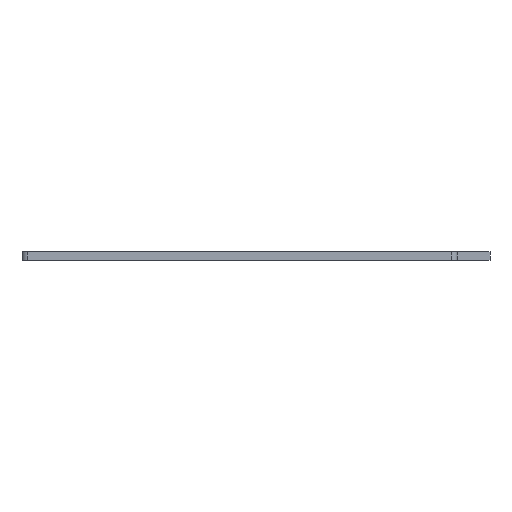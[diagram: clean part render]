
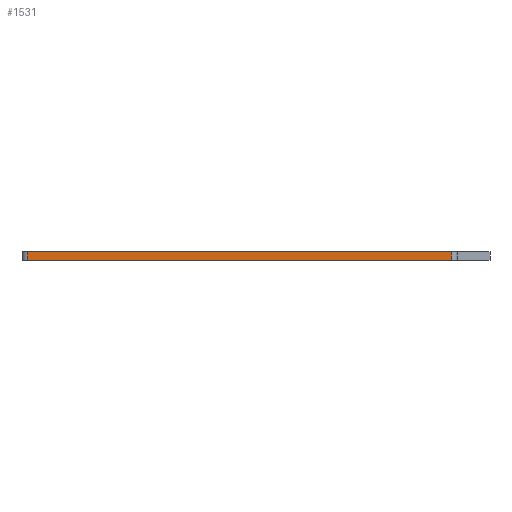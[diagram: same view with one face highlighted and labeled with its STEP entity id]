
A CAD part, front view. The second image highlights one B-rep face of the part: STEP entity #1531.
In plain terms, the highlighted planar face has unit normal (0, -1, 0).
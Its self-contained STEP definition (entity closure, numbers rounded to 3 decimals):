
#44 = PLANE('',#45);
#45 = AXIS2_PLACEMENT_3D('',#46,#47,#48);
#46 = CARTESIAN_POINT('',(0.3,-27.2,-1.92));
#47 = DIRECTION('',(0.,0.,1.));
#48 = DIRECTION('',(1.,0.,-0.));
#72 = CYLINDRICAL_SURFACE('',#73,0.2);
#73 = AXIS2_PLACEMENT_3D('',#74,#75,#76);
#74 = CARTESIAN_POINT('',(0.5,-27.,-2.22));
#75 = DIRECTION('',(0.,0.,1.));
#76 = DIRECTION('',(-1.,-0.,0.));
#100 = PLANE('',#101);
#101 = AXIS2_PLACEMENT_3D('',#102,#103,#104);
#102 = CARTESIAN_POINT('',(0.3,-27.2,-2.22));
#103 = DIRECTION('',(0.,0.,1.));
#104 = DIRECTION('',(1.,0.,-0.));
#143 = VERTEX_POINT('',#144);
#144 = CARTESIAN_POINT('',(0.5,-27.2,-1.92));
#166 = EDGE_CURVE('',#143,#167,#169,.T.);
#167 = VERTEX_POINT('',#168);
#168 = CARTESIAN_POINT('',(16.,-27.2,-1.92));
#169 = SURFACE_CURVE('',#170,(#174,#181),.PCURVE_S1.);
#170 = LINE('',#171,#172);
#171 = CARTESIAN_POINT('',(0.3,-27.2,-1.92));
#172 = VECTOR('',#173,1.);
#173 = DIRECTION('',(1.,0.,0.));
#174 = PCURVE('',#44,#175);
#175 = DEFINITIONAL_REPRESENTATION('',(#176),#180);
#176 = LINE('',#177,#178);
#177 = CARTESIAN_POINT('',(0.,0.));
#178 = VECTOR('',#179,1.);
#179 = DIRECTION('',(1.,0.));
#180 = ( GEOMETRIC_REPRESENTATION_CONTEXT(2) 
PARAMETRIC_REPRESENTATION_CONTEXT() REPRESENTATION_CONTEXT('2D SPACE',''
  ) );
#181 = PCURVE('',#182,#187);
#182 = PLANE('',#183);
#183 = AXIS2_PLACEMENT_3D('',#184,#185,#186);
#184 = CARTESIAN_POINT('',(0.3,-27.2,-2.22));
#185 = DIRECTION('',(0.,1.,0.));
#186 = DIRECTION('',(0.,-0.,1.));
#187 = DEFINITIONAL_REPRESENTATION('',(#188),#192);
#188 = LINE('',#189,#190);
#189 = CARTESIAN_POINT('',(0.3,0.));
#190 = VECTOR('',#191,1.);
#191 = DIRECTION('',(0.,1.));
#192 = ( GEOMETRIC_REPRESENTATION_CONTEXT(2) 
PARAMETRIC_REPRESENTATION_CONTEXT() REPRESENTATION_CONTEXT('2D SPACE',''
  ) );
#215 = CYLINDRICAL_SURFACE('',#216,0.2);
#216 = AXIS2_PLACEMENT_3D('',#217,#218,#219);
#217 = CARTESIAN_POINT('',(16.,-27.,-2.22));
#218 = DIRECTION('',(0.,0.,1.));
#219 = DIRECTION('',(1.,0.,-0.));
#650 = VERTEX_POINT('',#651);
#651 = CARTESIAN_POINT('',(0.5,-27.2,-2.22));
#673 = EDGE_CURVE('',#650,#143,#674,.T.);
#674 = SURFACE_CURVE('',#675,(#679,#686),.PCURVE_S1.);
#675 = LINE('',#676,#677);
#676 = CARTESIAN_POINT('',(0.5,-27.2,-2.22));
#677 = VECTOR('',#678,1.);
#678 = DIRECTION('',(0.,0.,1.));
#679 = PCURVE('',#72,#680);
#680 = DEFINITIONAL_REPRESENTATION('',(#681),#685);
#681 = LINE('',#682,#683);
#682 = CARTESIAN_POINT('',(1.571,0.));
#683 = VECTOR('',#684,1.);
#684 = DIRECTION('',(0.,1.));
#685 = ( GEOMETRIC_REPRESENTATION_CONTEXT(2) 
PARAMETRIC_REPRESENTATION_CONTEXT() REPRESENTATION_CONTEXT('2D SPACE',''
  ) );
#686 = PCURVE('',#182,#687);
#687 = DEFINITIONAL_REPRESENTATION('',(#688),#692);
#688 = LINE('',#689,#690);
#689 = CARTESIAN_POINT('',(0.,0.2));
#690 = VECTOR('',#691,1.);
#691 = DIRECTION('',(1.,0.));
#692 = ( GEOMETRIC_REPRESENTATION_CONTEXT(2) 
PARAMETRIC_REPRESENTATION_CONTEXT() REPRESENTATION_CONTEXT('2D SPACE',''
  ) );
#755 = EDGE_CURVE('',#650,#756,#758,.T.);
#756 = VERTEX_POINT('',#757);
#757 = CARTESIAN_POINT('',(16.,-27.2,-2.22));
#758 = SURFACE_CURVE('',#759,(#763,#770),.PCURVE_S1.);
#759 = LINE('',#760,#761);
#760 = CARTESIAN_POINT('',(0.3,-27.2,-2.22));
#761 = VECTOR('',#762,1.);
#762 = DIRECTION('',(1.,0.,0.));
#763 = PCURVE('',#100,#764);
#764 = DEFINITIONAL_REPRESENTATION('',(#765),#769);
#765 = LINE('',#766,#767);
#766 = CARTESIAN_POINT('',(0.,0.));
#767 = VECTOR('',#768,1.);
#768 = DIRECTION('',(1.,0.));
#769 = ( GEOMETRIC_REPRESENTATION_CONTEXT(2) 
PARAMETRIC_REPRESENTATION_CONTEXT() REPRESENTATION_CONTEXT('2D SPACE',''
  ) );
#770 = PCURVE('',#182,#771);
#771 = DEFINITIONAL_REPRESENTATION('',(#772),#776);
#772 = LINE('',#773,#774);
#773 = CARTESIAN_POINT('',(0.,0.));
#774 = VECTOR('',#775,1.);
#775 = DIRECTION('',(0.,1.));
#776 = ( GEOMETRIC_REPRESENTATION_CONTEXT(2) 
PARAMETRIC_REPRESENTATION_CONTEXT() REPRESENTATION_CONTEXT('2D SPACE',''
  ) );
#1510 = EDGE_CURVE('',#756,#167,#1511,.T.);
#1511 = SURFACE_CURVE('',#1512,(#1516,#1523),.PCURVE_S1.);
#1512 = LINE('',#1513,#1514);
#1513 = CARTESIAN_POINT('',(16.,-27.2,-2.22));
#1514 = VECTOR('',#1515,1.);
#1515 = DIRECTION('',(0.,0.,1.));
#1516 = PCURVE('',#215,#1517);
#1517 = DEFINITIONAL_REPRESENTATION('',(#1518),#1522);
#1518 = LINE('',#1519,#1520);
#1519 = CARTESIAN_POINT('',(4.712,0.));
#1520 = VECTOR('',#1521,1.);
#1521 = DIRECTION('',(-0.,1.));
#1522 = ( GEOMETRIC_REPRESENTATION_CONTEXT(2) 
PARAMETRIC_REPRESENTATION_CONTEXT() REPRESENTATION_CONTEXT('2D SPACE',''
  ) );
#1523 = PCURVE('',#182,#1524);
#1524 = DEFINITIONAL_REPRESENTATION('',(#1525),#1529);
#1525 = LINE('',#1526,#1527);
#1526 = CARTESIAN_POINT('',(0.,15.7));
#1527 = VECTOR('',#1528,1.);
#1528 = DIRECTION('',(1.,0.));
#1529 = ( GEOMETRIC_REPRESENTATION_CONTEXT(2) 
PARAMETRIC_REPRESENTATION_CONTEXT() REPRESENTATION_CONTEXT('2D SPACE',''
  ) );
#1531 = ADVANCED_FACE('',(#1532),#182,.F.);
#1532 = FACE_BOUND('',#1533,.F.);
#1533 = EDGE_LOOP('',(#1534,#1535,#1536,#1537));
#1534 = ORIENTED_EDGE('',*,*,#755,.F.);
#1535 = ORIENTED_EDGE('',*,*,#673,.T.);
#1536 = ORIENTED_EDGE('',*,*,#166,.T.);
#1537 = ORIENTED_EDGE('',*,*,#1510,.F.);
